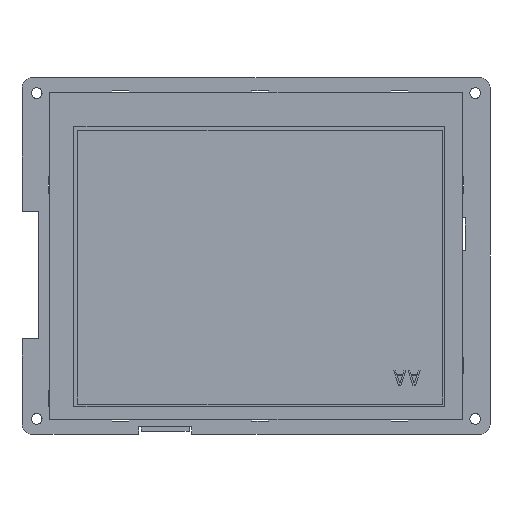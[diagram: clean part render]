
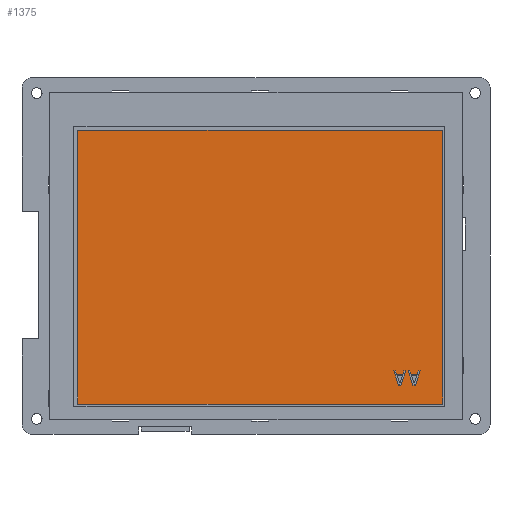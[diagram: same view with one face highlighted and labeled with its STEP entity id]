
A CAD part, front view. The second image highlights one B-rep face of the part: STEP entity #1375.
In plain terms, the highlighted planar face has unit normal (0, -1, 0) as drawn and (0, 1, 0) by its records, which use the part's own axes.
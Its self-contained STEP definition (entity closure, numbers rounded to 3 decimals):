
#620=DIRECTION('',(0.,0.,1.));
#621=VECTOR('',#620,84.672);
#622=CARTESIAN_POINT('',(-57.74,5.5,-45.79));
#623=LINE('',#622,#621);
#624=DIRECTION('',(-1.,0.,0.));
#625=VECTOR('',#624,112.896);
#626=CARTESIAN_POINT('',(55.156,5.5,-45.79));
#627=LINE('',#626,#625);
#628=DIRECTION('',(0.,0.,-1.));
#629=VECTOR('',#628,84.672);
#630=CARTESIAN_POINT('',(55.156,5.5,38.882));
#631=LINE('',#630,#629);
#632=DIRECTION('',(1.,0.,0.));
#633=VECTOR('',#632,112.896);
#634=CARTESIAN_POINT('',(-57.74,5.5,38.882));
#635=LINE('',#634,#633);
#636=DIRECTION('',(0.316,0.,0.949));
#637=VECTOR('',#636,4.701);
#638=CARTESIAN_POINT('',(-48.562,5.5,-39.988));
#639=LINE('',#638,#637);
#640=DIRECTION('',(1.,0.,0.));
#641=VECTOR('',#640,0.743);
#642=CARTESIAN_POINT('',(-49.305,5.5,-39.988));
#643=LINE('',#642,#641);
#644=DIRECTION('',(0.316,0.,-0.949));
#645=VECTOR('',#644,4.701);
#646=CARTESIAN_POINT('',(-50.792,5.5,-35.528));
#647=LINE('',#646,#645);
#648=DIRECTION('',(-1.,0.,0.));
#649=VECTOR('',#648,0.558);
#650=CARTESIAN_POINT('',(-50.234,5.5,-35.528));
#651=LINE('',#650,#649);
#652=DIRECTION('',(-0.31,0.,0.951));
#653=VECTOR('',#652,1.198);
#654=CARTESIAN_POINT('',(-49.863,5.5,-36.666));
#655=LINE('',#654,#653);
#656=DIRECTION('',(-1.,0.,0.));
#657=VECTOR('',#656,1.858);
#658=CARTESIAN_POINT('',(-48.004,5.5,-36.666));
#659=LINE('',#658,#657);
#660=DIRECTION('',(-0.31,0.,-0.951));
#661=VECTOR('',#660,1.198);
#662=CARTESIAN_POINT('',(-47.633,5.5,-35.528));
#663=LINE('',#662,#661);
#664=DIRECTION('',(-1.,0.,0.));
#665=VECTOR('',#664,0.558);
#666=CARTESIAN_POINT('',(-47.075,5.5,-35.528));
#667=LINE('',#666,#665);
#680=DIRECTION('',(0.316,0.,0.949));
#681=VECTOR('',#680,4.701);
#682=CARTESIAN_POINT('',(-44.102,5.5,-39.988));
#683=LINE('',#682,#681);
#684=DIRECTION('',(1.,0.,0.));
#685=VECTOR('',#684,0.743);
#686=CARTESIAN_POINT('',(-44.845,5.5,-39.988));
#687=LINE('',#686,#685);
#688=DIRECTION('',(0.316,0.,-0.949));
#689=VECTOR('',#688,4.701);
#690=CARTESIAN_POINT('',(-46.332,5.5,-35.528));
#691=LINE('',#690,#689);
#692=DIRECTION('',(-1.,0.,0.));
#693=VECTOR('',#692,0.558);
#694=CARTESIAN_POINT('',(-45.774,5.5,-35.528));
#695=LINE('',#694,#693);
#696=DIRECTION('',(-0.31,0.,0.951));
#697=VECTOR('',#696,1.198);
#698=CARTESIAN_POINT('',(-45.403,5.5,-36.666));
#699=LINE('',#698,#697);
#700=DIRECTION('',(-1.,0.,0.));
#701=VECTOR('',#700,1.858);
#702=CARTESIAN_POINT('',(-43.544,5.5,-36.666));
#703=LINE('',#702,#701);
#704=DIRECTION('',(-0.31,0.,-0.951));
#705=VECTOR('',#704,1.198);
#706=CARTESIAN_POINT('',(-43.173,5.5,-35.528));
#707=LINE('',#706,#705);
#708=DIRECTION('',(-1.,0.,0.));
#709=VECTOR('',#708,0.558);
#710=CARTESIAN_POINT('',(-42.615,5.5,-35.528));
#711=LINE('',#710,#709);
#916=CARTESIAN_POINT('',(-57.74,5.5,-45.79));
#917=CARTESIAN_POINT('',(-57.74,5.5,38.882));
#918=VERTEX_POINT('',#916);
#919=VERTEX_POINT('',#917);
#920=CARTESIAN_POINT('',(55.156,5.5,38.882));
#921=VERTEX_POINT('',#920);
#922=CARTESIAN_POINT('',(55.156,5.5,-45.79));
#923=VERTEX_POINT('',#922);
#924=CARTESIAN_POINT('',(-48.562,5.5,-39.988));
#925=CARTESIAN_POINT('',(-47.075,5.5,-35.528));
#926=VERTEX_POINT('',#924);
#927=VERTEX_POINT('',#925);
#928=CARTESIAN_POINT('',(-47.633,5.5,-35.528));
#929=VERTEX_POINT('',#928);
#930=CARTESIAN_POINT('',(-48.004,5.5,-36.666));
#931=VERTEX_POINT('',#930);
#932=CARTESIAN_POINT('',(-49.863,5.5,-36.666));
#933=VERTEX_POINT('',#932);
#934=CARTESIAN_POINT('',(-50.234,5.5,-35.528));
#935=VERTEX_POINT('',#934);
#936=CARTESIAN_POINT('',(-50.792,5.5,-35.528));
#937=VERTEX_POINT('',#936);
#938=CARTESIAN_POINT('',(-49.305,5.5,-39.988));
#939=VERTEX_POINT('',#938);
#946=CARTESIAN_POINT('',(-44.102,5.5,-39.988));
#947=CARTESIAN_POINT('',(-42.615,5.5,-35.528));
#948=VERTEX_POINT('',#946);
#949=VERTEX_POINT('',#947);
#950=CARTESIAN_POINT('',(-43.173,5.5,-35.528));
#951=VERTEX_POINT('',#950);
#952=CARTESIAN_POINT('',(-43.544,5.5,-36.666));
#953=VERTEX_POINT('',#952);
#954=CARTESIAN_POINT('',(-45.403,5.5,-36.666));
#955=VERTEX_POINT('',#954);
#956=CARTESIAN_POINT('',(-45.774,5.5,-35.528));
#957=VERTEX_POINT('',#956);
#958=CARTESIAN_POINT('',(-46.332,5.5,-35.528));
#959=VERTEX_POINT('',#958);
#960=CARTESIAN_POINT('',(-44.845,5.5,-39.988));
#961=VERTEX_POINT('',#960);
#1328=CARTESIAN_POINT('',(0.,5.5,0.));
#1329=DIRECTION('',(0.,1.,0.));
#1330=DIRECTION('',(1.,0.,0.));
#1331=AXIS2_PLACEMENT_3D('',#1328,#1329,#1330);
#1332=PLANE('',#1331);
#1333=ORIENTED_EDGE('',*,*,#1280,.F.);
#1334=ORIENTED_EDGE('',*,*,#1295,.F.);
#1335=ORIENTED_EDGE('',*,*,#1309,.F.);
#1336=ORIENTED_EDGE('',*,*,#1322,.F.);
#1337=EDGE_LOOP('',(#1333,#1334,#1335,#1336));
#1338=FACE_OUTER_BOUND('',#1337,.F.);
#1340=ORIENTED_EDGE('',*,*,#1339,.F.);
#1342=ORIENTED_EDGE('',*,*,#1341,.F.);
#1344=ORIENTED_EDGE('',*,*,#1343,.F.);
#1346=ORIENTED_EDGE('',*,*,#1345,.F.);
#1348=ORIENTED_EDGE('',*,*,#1347,.F.);
#1350=ORIENTED_EDGE('',*,*,#1349,.F.);
#1352=ORIENTED_EDGE('',*,*,#1351,.F.);
#1354=ORIENTED_EDGE('',*,*,#1353,.F.);
#1355=EDGE_LOOP('',(#1340,#1342,#1344,#1346,#1348,#1350,#1352,#1354));
#1356=FACE_BOUND('',#1355,.F.);
#1358=ORIENTED_EDGE('',*,*,#1357,.F.);
#1360=ORIENTED_EDGE('',*,*,#1359,.F.);
#1362=ORIENTED_EDGE('',*,*,#1361,.F.);
#1364=ORIENTED_EDGE('',*,*,#1363,.F.);
#1366=ORIENTED_EDGE('',*,*,#1365,.F.);
#1368=ORIENTED_EDGE('',*,*,#1367,.F.);
#1370=ORIENTED_EDGE('',*,*,#1369,.F.);
#1372=ORIENTED_EDGE('',*,*,#1371,.F.);
#1373=EDGE_LOOP('',(#1358,#1360,#1362,#1364,#1366,#1368,#1370,#1372));
#1374=FACE_BOUND('',#1373,.F.);
#1280=EDGE_CURVE('',#918,#919,#623,.T.);
#1295=EDGE_CURVE('',#923,#918,#627,.T.);
#1309=EDGE_CURVE('',#921,#923,#631,.T.);
#1322=EDGE_CURVE('',#919,#921,#635,.T.);
#1339=EDGE_CURVE('',#926,#927,#639,.T.);
#1341=EDGE_CURVE('',#939,#926,#643,.T.);
#1343=EDGE_CURVE('',#937,#939,#647,.T.);
#1345=EDGE_CURVE('',#935,#937,#651,.T.);
#1347=EDGE_CURVE('',#933,#935,#655,.T.);
#1349=EDGE_CURVE('',#931,#933,#659,.T.);
#1351=EDGE_CURVE('',#929,#931,#663,.T.);
#1353=EDGE_CURVE('',#927,#929,#667,.T.);
#1357=EDGE_CURVE('',#948,#949,#683,.T.);
#1359=EDGE_CURVE('',#961,#948,#687,.T.);
#1361=EDGE_CURVE('',#959,#961,#691,.T.);
#1363=EDGE_CURVE('',#957,#959,#695,.T.);
#1365=EDGE_CURVE('',#955,#957,#699,.T.);
#1367=EDGE_CURVE('',#953,#955,#703,.T.);
#1369=EDGE_CURVE('',#951,#953,#707,.T.);
#1371=EDGE_CURVE('',#949,#951,#711,.T.);
#1375=ADVANCED_FACE('',(#1338,#1356,#1374),#1332,.T.);
